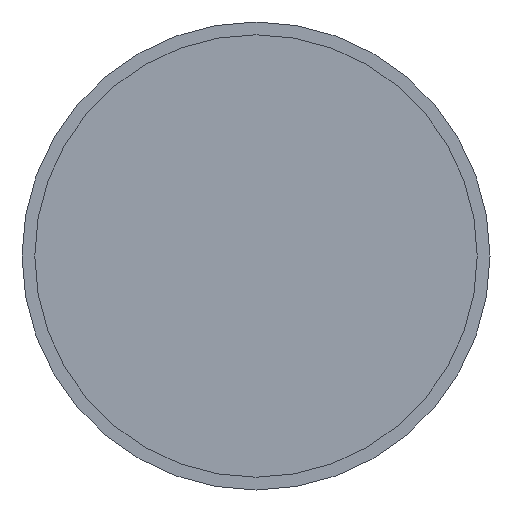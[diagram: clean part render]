
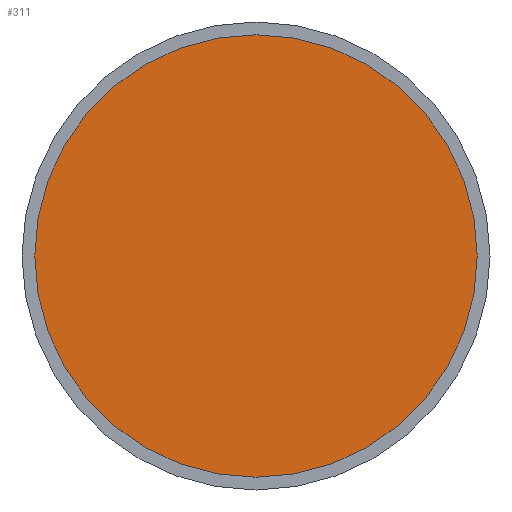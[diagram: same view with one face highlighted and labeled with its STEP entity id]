
A CAD part, left-side view. The second image highlights one B-rep face of the part: STEP entity #311.
In plain terms, the highlighted planar face has unit normal (-1, 0, 0).
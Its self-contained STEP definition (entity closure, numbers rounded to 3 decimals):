
#29=PLANE('',#379);
#32=CIRCLE('',#336,2.595);
#33=CIRCLE('',#337,2.595);
#77=FACE_OUTER_BOUND('',#98,.T.);
#98=EDGE_LOOP('',(#288,#289));
#127=VERTEX_POINT('',#571);
#128=VERTEX_POINT('',#573);
#163=EDGE_CURVE('',#127,#128,#32,.T.);
#164=EDGE_CURVE('',#128,#127,#33,.T.);
#288=ORIENTED_EDGE('',*,*,#164,.F.);
#289=ORIENTED_EDGE('',*,*,#163,.F.);
#311=ADVANCED_FACE('',(#77),#29,.T.);
#336=AXIS2_PLACEMENT_3D('',#574,#392,#393);
#337=AXIS2_PLACEMENT_3D('',#575,#394,#395);
#379=AXIS2_PLACEMENT_3D('',#650,#485,#486);
#392=DIRECTION('center_axis',(1.,0.,0.));
#393=DIRECTION('ref_axis',(0.,1.,0.));
#394=DIRECTION('center_axis',(1.,0.,0.));
#395=DIRECTION('ref_axis',(0.,1.,0.));
#485=DIRECTION('center_axis',(-1.,0.,0.));
#486=DIRECTION('ref_axis',(0.,0.,1.));
#571=CARTESIAN_POINT('',(0.,-2.595,0.));
#573=CARTESIAN_POINT('',(0.,2.595,0.));
#574=CARTESIAN_POINT('Origin',(0.,0.,0.));
#575=CARTESIAN_POINT('Origin',(0.,0.,0.));
#650=CARTESIAN_POINT('Origin',(0.,1.298,0.));
